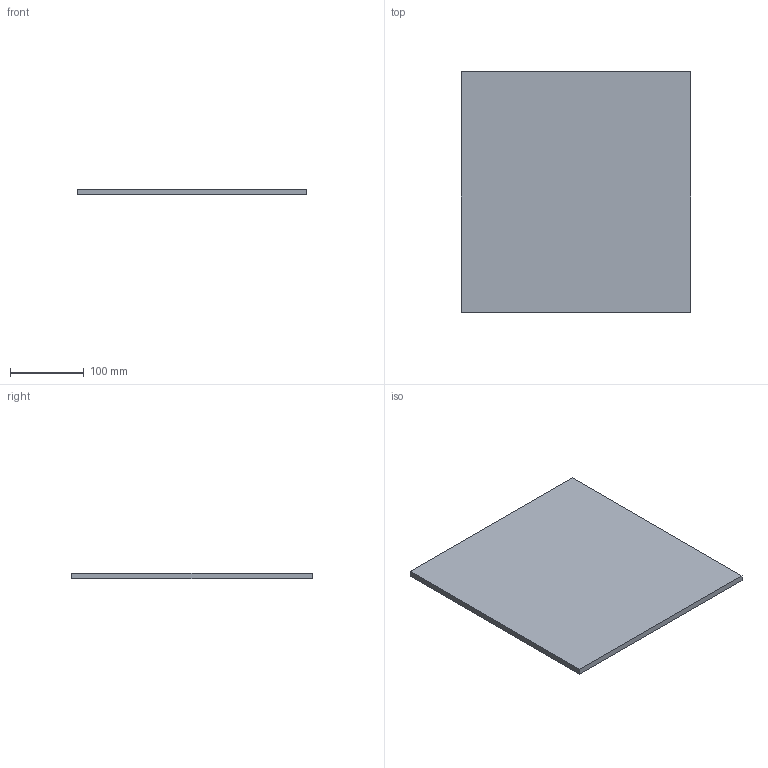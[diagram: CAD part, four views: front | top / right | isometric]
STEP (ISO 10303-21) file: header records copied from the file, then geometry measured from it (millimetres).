
FILE_DESCRIPTION(('Open CASCADE Model'),'2;1');
FILE_NAME('Open CASCADE Shape Model','2026-10-04T01:02:27',('Author'),( 'Open CASCADE'),'Open CASCADE STEP processor 8.0','Open CASCADE 8.0' ,'Unknown');
FILE_SCHEMA(('AUTOMOTIVE_DESIGN { 1 0 10303 214 1 1 1 1 }'));
Length unit declared in the file: millimetre
Products named in the file (1): Open CASCADE STEP translator 8.0 89
Bounding box: 310 x 325 x 8 mm (x, y, z)
Volume: 806000 mm3; surface area: 211660 mm2
Topology: 1 solids, 1 shells, 6 faces, 12 edges, 8 vertices
Faces by surface type: plane 6
Entity records: 322 total; most frequent: CARTESIAN_POINT 51, DIRECTION 50, LINE 36, VECTOR 36, ORIENTED_EDGE 24, PCURVE 24, DEFINITIONAL_REPRESENTATION 24, EDGE_CURVE 12
